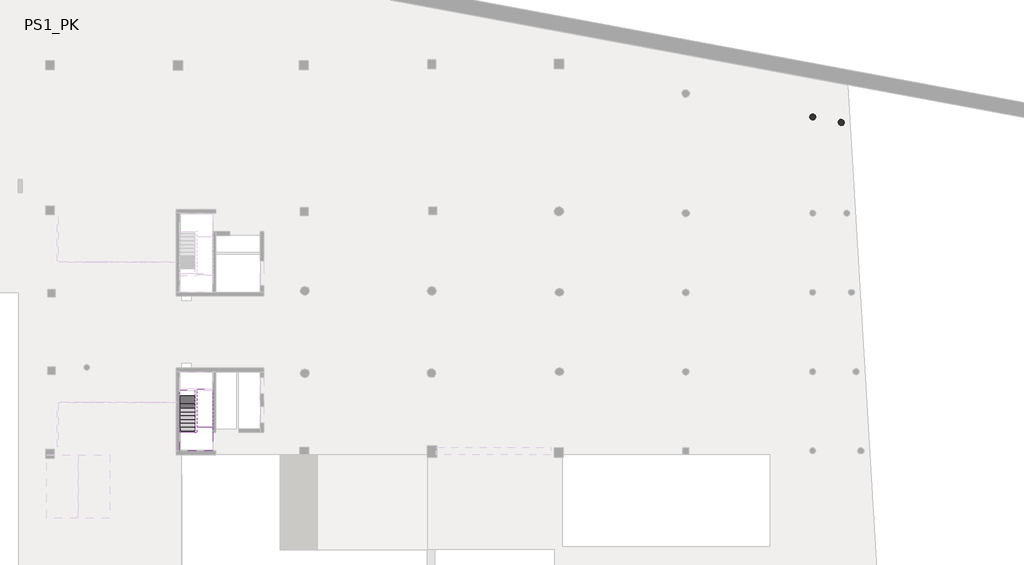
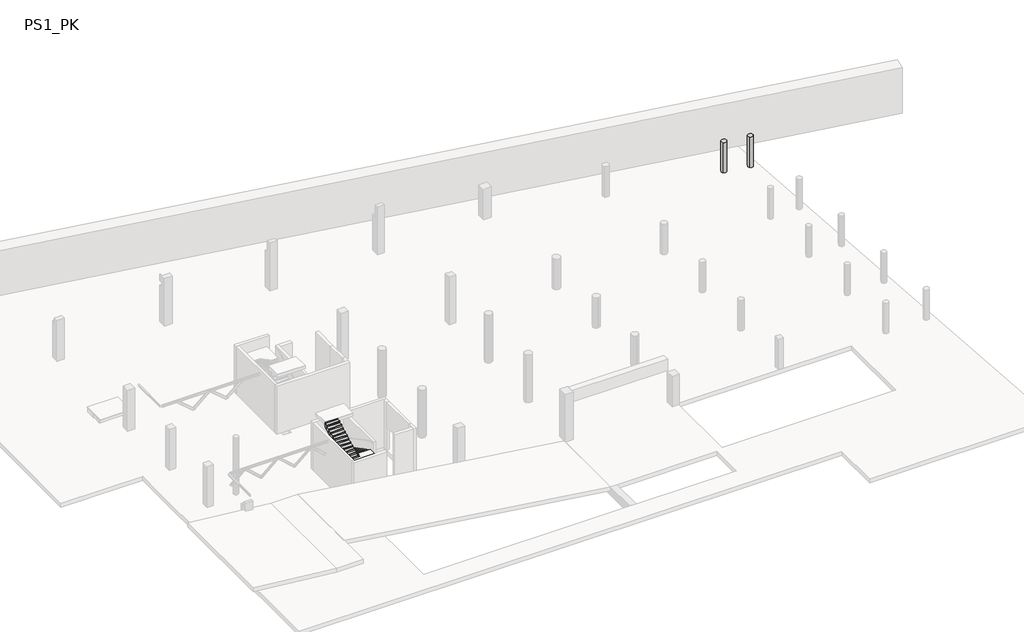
# One storey, part 3 of 5: 3 stair flights, 2 columns, 1 slab.
"""IFC4 building model written with IfcOpenShell, lengths in millimetres."""

from ifc_helpers import new_model, si_unit, point, frame, frame_2d, origin, place, context, project, spatial, polyline, circle_curve, trimmed, segment, composite_curve, outline, extrude, faceted_brep, element, save

model = new_model("IFC4")

# Units and contexts
model_context = context("Model", 3, world=origin())
ifc_project = project(units=[si_unit("LENGTHUNIT", "METRE", prefix="MILLI")], contexts=[model_context])

# Site, building, storey
site = spatial("IfcSite", under=ifc_project)
building = spatial("IfcBuilding", under=site)
storey = spatial("IfcBuildingStorey", under=building, Name="PS1_PK", Elevation=1850.0)

# Columns
placement = place(None, origin())
element("IfcColumn", 1, ObjectType="Hormigón-Redondo-Pilar : Pilo_Rodo-Formigo-500", at=placement, inside=storey, context=model_context, shape_type="SweptSolid", body=[
    extrude(outline(composite_curve([segment(trimmed(circle_curve(frame_2d((38738.3747997, 21018.6057261)), 250.0), [point((38532.4698587, 20876.8201299))], [point((38944.2797407, 21160.3913222))], False, "CARTESIAN"), True, "CONTINUOUS"), segment(trimmed(circle_curve(frame_2d((38738.3747997, 21018.6057261)), 250.0), [point((38944.2797407, 21160.3913222))], [point((38532.4698587, 20876.8201299))], False, "CARTESIAN"), True, "CONTINUOUS")], self_intersect=False)), frame((0.0, 0.0, 1850.0), z_axis=(0.0, 0.0, 1.0), x_axis=(1.0, 0.0, 0.0)), (0.0, 0.0, 1.0), 3030.0),
])
element("IfcColumn", 2, ObjectType="Hormigón-Redondo-Pilar : Pilo_Rodo-Formigo-500", at=placement, inside=storey, context=model_context, shape_type="SweptSolid", body=[
    extrude(outline(composite_curve([segment(trimmed(circle_curve(frame_2d((36484.7068935, 21438.5754886)), 250.0), [point((36278.8019525, 21296.7898924))], [point((36690.6118345, 21580.3610847))], False, "CARTESIAN"), True, "CONTINUOUS"), segment(trimmed(circle_curve(frame_2d((36484.7068935, 21438.5754886)), 250.0), [point((36690.6118345, 21580.3610847))], [point((36278.8019525, 21296.7898924))], False, "CARTESIAN"), True, "CONTINUOUS")], self_intersect=False)), frame((0.0, 0.0, 1850.0), z_axis=(0.0, 0.0, 1.0), x_axis=(1.0, 0.0, 0.0)), (0.0, 0.0, 1.0), 3030.0),
])

# Slab
element("IfcSlab", 3, ObjectType="250mm_Thickness", at=placement, inside=storey, context=model_context, shape_type="SolidModel", body=[
    faceted_brep([(-10790.2146087, -3035.1039323, 5553.7142857), (-11990.2146087, -3035.1039323, 5553.7142857), (-11990.2146087, -3397.2095479, 5553.7142857), (-11990.2146087, -3435.1039323, 5553.7142857), (-12190.3216429, -3435.1039323, 5553.7142857), (-12190.3216429, -3385.1039323, 5553.7142857), (-13390.3216429, -3385.1039323, 5553.7142857), (-13390.3216429, -3435.1039323, 5553.7142857), (-13390.3216429, -4885.1039323, 5553.7142857), (-10790.2146087, -4885.1039323, 5553.7142857), (-10790.2146087, -3397.2095479, 5553.7142857), (-10790.2146087, -3035.1039323, 5394.8571429), (-10790.2146087, -3035.1039323, 5111.9707407), (-11990.2146087, -3035.1039323, 5111.9707407), (-11990.2146087, -3035.1039323, 5394.8571429), (-10790.2146087, -4885.1039323, 5303.7142857), (-10790.2146087, -3397.2095479, 5303.7142857), (-13390.3216429, -4885.1039323, 5303.7142857), (-13390.3216429, -3435.1039323, 5303.7142857), (-12190.3216429, -3385.1039323, 5303.7142857), (-13390.3216429, -3385.1039323, 5303.7142857), (-11990.2146087, -3435.1039323, 5303.7142857), (-12190.3216429, -3435.1039323, 5303.7142857), (-11990.2146087, -3397.2095479, 5303.7142857)], [[[0, 1, 2, 3, 4, 5, 6, 7, 8, 9, 10]], [[1, 0, 11, 12, 13, 14]], [[12, 11, 0, 10, 9, 15, 16]], [[9, 8, 17, 15]], [[8, 7, 18, 17]], [[6, 5, 19, 20]], [[4, 3, 21, 22]], [[1, 14, 13, 23, 21, 3, 2]], [[23, 16, 15, 17, 18, 20, 19, 22, 21]], [[16, 23, 13, 12]], [[5, 4, 22, 19]], [[7, 6, 20, 18]]]),
    extrude(outline(polyline([(-10790.2146087, -2985.1039323), (-10790.2146087, -4885.1039323), (-13390.3216429, -4885.1039323), (-13390.3216429, -3435.1039323), (-12190.3216429, -3435.1039323), (-11990.2146087, -3435.1039323), (-11990.2146087, -2985.1039323), (-10790.2146087, -2985.1039323)])), frame((0.0, 0.0, 5553.7142857), z_axis=(0.0, 0.0, 1.0), x_axis=(1.0, 0.0, 0.0)), (0.0, 0.0, 1.0), 50.0),
])

# Stair flights
element("IfcStairFlight", 4, ObjectType="250mm Depth", at=placement, inside=storey, context=model_context, shape_type="SolidModel", body=[
    faceted_brep([(-13390.3216429, -2935.1039323, 2058.8571429), (-13390.3216429, -3235.1039323, 2058.8571429), (-12190.3216429, -3235.1039323, 2058.8571429), (-12190.3216429, -2935.1039323, 2058.8571429), (-12190.3216429, -3235.1039323, 1950.0), (-12190.3216429, -2935.1039323, 1950.0), (-13390.3216429, -3235.1039323, 1950.0), (-13390.3216429, -2935.1039323, 1950.0), (-13390.3216429, -2635.1039323, 2217.7142857), (-13390.3216429, -2935.1039323, 2217.7142857), (-12190.3216429, -2935.1039323, 2217.7142857), (-12190.3216429, -2635.1039323, 2217.7142857), (-12190.3216429, -2635.1039323, 1950.0), (-13390.3216429, -2635.1039323, 1950.0), (-13390.3216429, -2335.1039323, 2376.5714286), (-13390.3216429, -2635.1039323, 2376.5714286), (-12190.3216429, -2635.1039323, 2376.5714286), (-12190.3216429, -2335.1039323, 2376.5714286), (-12190.3216429, -2606.451554, 1950.0), (-12190.3216429, -2335.1039323, 2093.6850264), (-13390.3216429, -2335.1039323, 2093.6850264), (-13390.3216429, -2606.451554, 1950.0), (-13390.3216429, -2035.1039323, 2535.4285714), (-13390.3216429, -2335.1039323, 2535.4285714), (-12190.3216429, -2335.1039323, 2535.4285714), (-12190.3216429, -2035.1039323, 2535.4285714), (-12190.3216429, -2035.1039323, 2252.5421692), (-13390.3216429, -2035.1039323, 2252.5421692), (-13390.3216429, -1735.1039323, 2694.2857143), (-13390.3216429, -2035.1039323, 2694.2857143), (-12190.3216429, -2035.1039323, 2694.2857143), (-12190.3216429, -1735.1039323, 2694.2857143), (-12190.3216429, -1735.1039323, 2411.3993121), (-13390.3216429, -1735.1039323, 2411.3993121), (-13390.3216429, -1435.1039323, 2853.1428571), (-13390.3216429, -1735.1039323, 2853.1428571), (-12190.3216429, -1735.1039323, 2853.1428571), (-12190.3216429, -1435.1039323, 2853.1428571), (-12190.3216429, -1435.1039323, 2570.2564549), (-13390.3216429, -1435.1039323, 2570.2564549), (-13390.3216429, -1135.1039323, 3012.0), (-13390.3216429, -1435.1039323, 3012.0), (-12190.3216429, -1435.1039323, 3012.0), (-12190.3216429, -1135.1039323, 3012.0), (-12190.3216429, -1135.1039323, 2729.1135978), (-13390.3216429, -1135.1039323, 2729.1135978), (-13390.3216429, -835.1039323, 3170.8571429), (-13390.3216429, -1135.1039323, 3170.8571429), (-12190.3216429, -1135.1039323, 3170.8571429), (-12190.3216429, -835.1039323, 3170.8571429), (-12190.3216429, -835.1039323, 2887.9707407), (-13390.3216429, -835.1039323, 2887.9707407), (-13390.3216429, -535.1039323, 3329.7142857), (-13390.3216429, -835.1039323, 3329.7142857), (-12190.3216429, -835.1039323, 3329.7142857), (-12190.3216429, -535.1039323, 3329.7142857), (-12190.3216429, -535.1039323, 3046.8278835), (-13390.3216429, -535.1039323, 3046.8278835), (-13390.3216429, -235.1039323, 3488.5714286), (-13390.3216429, -535.1039323, 3488.5714286), (-12190.3216429, -535.1039323, 3488.5714286), (-12190.3216429, -235.1039323, 3488.5714286), (-12190.3216429, -235.1039323, 3205.6850264), (-13390.3216429, -235.1039323, 3205.6850264), (-13390.3216429, 64.8960677, 3647.4285714), (-13390.3216429, -235.1039323, 3647.4285714), (-12190.3216429, -235.1039323, 3647.4285714), (-12190.3216429, 14.8960677, 3647.4285714), (-12190.3216429, 64.8960677, 3647.4285714), (-12190.3216429, 64.8960677, 3364.5421692), (-12190.3216429, 64.8960677, 3556.2857143), (-13390.3216429, 64.8960677, 3364.5421692)], [[[0, 1, 2, 3]], [[3, 2, 4, 5]], [[2, 1, 6, 4]], [[1, 0, 7, 6]], [[8, 9, 10, 11]], [[3, 5, 12, 11, 10]], [[0, 3, 10, 9]], [[7, 0, 9, 8, 13]], [[14, 15, 16, 17]], [[11, 12, 18, 19, 17, 16]], [[8, 11, 16, 15]], [[13, 8, 15, 14, 20, 21]], [[22, 23, 24, 25]], [[25, 24, 17, 19, 26]], [[14, 17, 24, 23]], [[23, 22, 27, 20, 14]], [[28, 29, 30, 31]], [[31, 30, 25, 26, 32]], [[22, 25, 30, 29]], [[29, 28, 33, 27, 22]], [[34, 35, 36, 37]], [[37, 36, 31, 32, 38]], [[28, 31, 36, 35]], [[35, 34, 39, 33, 28]], [[40, 41, 42, 43]], [[43, 42, 37, 38, 44]], [[34, 37, 42, 41]], [[41, 40, 45, 39, 34]], [[46, 47, 48, 49]], [[49, 48, 43, 44, 50]], [[40, 43, 48, 47]], [[47, 46, 51, 45, 40]], [[52, 53, 54, 55]], [[55, 54, 49, 50, 56]], [[46, 49, 54, 53]], [[53, 52, 57, 51, 46]], [[58, 59, 60, 61]], [[61, 60, 55, 56, 62]], [[52, 55, 60, 59]], [[59, 58, 63, 57, 52]], [[64, 65, 66, 67, 68]], [[66, 61, 62, 69, 70, 68, 67]], [[58, 61, 66, 65]], [[65, 64, 71, 63, 58]], [[64, 68, 70, 69, 71]], [[6, 7, 13, 21, 18, 12, 5, 4]], [[18, 21, 20, 27, 33, 39, 45, 51, 57, 63, 71, 69, 62, 56, 50, 44, 38, 32, 26, 19]]]),
    extrude(outline(polyline([(-12190.3216429, -3235.1039323), (-12190.3216429, -3285.1039323), (-13390.3216429, -3285.1039323), (-13390.3216429, -3235.1039323), (-12190.3216429, -3235.1039323)])), frame((0.0, 0.0, 1950.0), z_axis=(0.0, 0.0, 1.0), x_axis=(1.0, 0.0, 0.0)), (0.0, 0.0, 1.0), 108.8571429),
    extrude(outline(polyline([(-13390.3216429, -2985.1039323), (-12190.3216429, -2985.1039323), (-12190.3216429, -3285.1039323), (-13390.3216429, -3285.1039323), (-13390.3216429, -2985.1039323)])), frame((0.0, 0.0, 2058.8571429), z_axis=(0.0, 0.0, 1.0), x_axis=(1.0, 0.0, 0.0)), (0.0, 0.0, 1.0), 50.0),
    extrude(outline(polyline([(-12190.3216429, -2935.1039323), (-12190.3216429, -2985.1039323), (-13390.3216429, -2985.1039323), (-13390.3216429, -2935.1039323), (-12190.3216429, -2935.1039323)])), frame((0.0, 0.0, 2058.8571429), z_axis=(0.0, 0.0, 1.0), x_axis=(1.0, 0.0, 0.0)), (0.0, 0.0, 1.0), 158.8571429),
    extrude(outline(polyline([(-13390.3216429, -2685.1039323), (-12190.3216429, -2685.1039323), (-12190.3216429, -2985.1039323), (-13390.3216429, -2985.1039323), (-13390.3216429, -2685.1039323)])), frame((0.0, 0.0, 2217.7142857), z_axis=(0.0, 0.0, 1.0), x_axis=(1.0, 0.0, 0.0)), (0.0, 0.0, 1.0), 50.0),
    extrude(outline(polyline([(-12190.3216429, -2635.1039323), (-12190.3216429, -2685.1039323), (-13390.3216429, -2685.1039323), (-13390.3216429, -2635.1039323), (-12190.3216429, -2635.1039323)])), frame((0.0, 0.0, 2217.7142857), z_axis=(0.0, 0.0, 1.0), x_axis=(1.0, 0.0, 0.0)), (0.0, 0.0, 1.0), 158.8571429),
    extrude(outline(polyline([(-13390.3216429, -2385.1039323), (-12190.3216429, -2385.1039323), (-12190.3216429, -2685.1039323), (-13390.3216429, -2685.1039323), (-13390.3216429, -2385.1039323)])), frame((0.0, 0.0, 2376.5714286), z_axis=(0.0, 0.0, 1.0), x_axis=(1.0, 0.0, 0.0)), (0.0, 0.0, 1.0), 50.0),
    extrude(outline(polyline([(-12190.3216429, -2335.1039323), (-12190.3216429, -2385.1039323), (-13390.3216429, -2385.1039323), (-13390.3216429, -2335.1039323), (-12190.3216429, -2335.1039323)])), frame((0.0, 0.0, 2376.5714286), z_axis=(0.0, 0.0, 1.0), x_axis=(1.0, 0.0, 0.0)), (0.0, 0.0, 1.0), 158.8571429),
    extrude(outline(polyline([(-13390.3216429, -2085.1039323), (-12190.3216429, -2085.1039323), (-12190.3216429, -2385.1039323), (-13390.3216429, -2385.1039323), (-13390.3216429, -2085.1039323)])), frame((0.0, 0.0, 2535.4285714), z_axis=(0.0, 0.0, 1.0), x_axis=(1.0, 0.0, 0.0)), (0.0, 0.0, 1.0), 50.0),
    extrude(outline(polyline([(-12190.3216429, -2035.1039323), (-12190.3216429, -2085.1039323), (-13390.3216429, -2085.1039323), (-13390.3216429, -2035.1039323), (-12190.3216429, -2035.1039323)])), frame((0.0, 0.0, 2535.4285714), z_axis=(0.0, 0.0, 1.0), x_axis=(1.0, 0.0, 0.0)), (0.0, 0.0, 1.0), 158.8571429),
    extrude(outline(polyline([(-13390.3216429, -1785.1039323), (-12190.3216429, -1785.1039323), (-12190.3216429, -2085.1039323), (-13390.3216429, -2085.1039323), (-13390.3216429, -1785.1039323)])), frame((0.0, 0.0, 2694.2857143), z_axis=(0.0, 0.0, 1.0), x_axis=(1.0, 0.0, 0.0)), (0.0, 0.0, 1.0), 50.0),
    extrude(outline(polyline([(-12190.3216429, -1735.1039323), (-12190.3216429, -1785.1039323), (-13390.3216429, -1785.1039323), (-13390.3216429, -1735.1039323), (-12190.3216429, -1735.1039323)])), frame((0.0, 0.0, 2694.2857143), z_axis=(0.0, 0.0, 1.0), x_axis=(1.0, 0.0, 0.0)), (0.0, 0.0, 1.0), 158.8571429),
    extrude(outline(polyline([(-13390.3216429, -1485.1039323), (-12190.3216429, -1485.1039323), (-12190.3216429, -1785.1039323), (-13390.3216429, -1785.1039323), (-13390.3216429, -1485.1039323)])), frame((0.0, 0.0, 2853.1428571), z_axis=(0.0, 0.0, 1.0), x_axis=(1.0, 0.0, 0.0)), (0.0, 0.0, 1.0), 50.0),
    extrude(outline(polyline([(-12190.3216429, -1435.1039323), (-12190.3216429, -1485.1039323), (-13390.3216429, -1485.1039323), (-13390.3216429, -1435.1039323), (-12190.3216429, -1435.1039323)])), frame((0.0, 0.0, 2853.1428571), z_axis=(0.0, 0.0, 1.0), x_axis=(1.0, 0.0, 0.0)), (0.0, 0.0, 1.0), 158.8571429),
    extrude(outline(polyline([(-13390.3216429, -1185.1039323), (-12190.3216429, -1185.1039323), (-12190.3216429, -1485.1039323), (-13390.3216429, -1485.1039323), (-13390.3216429, -1185.1039323)])), frame((0.0, 0.0, 3012.0), z_axis=(0.0, 0.0, 1.0), x_axis=(1.0, 0.0, 0.0)), (0.0, 0.0, 1.0), 50.0),
    extrude(outline(polyline([(-12190.3216429, -1135.1039323), (-12190.3216429, -1185.1039323), (-13390.3216429, -1185.1039323), (-13390.3216429, -1135.1039323), (-12190.3216429, -1135.1039323)])), frame((0.0, 0.0, 3012.0), z_axis=(0.0, 0.0, 1.0), x_axis=(1.0, 0.0, 0.0)), (0.0, 0.0, 1.0), 158.8571429),
    extrude(outline(polyline([(-13390.3216429, -885.1039323), (-12190.3216429, -885.1039323), (-12190.3216429, -1185.1039323), (-13390.3216429, -1185.1039323), (-13390.3216429, -885.1039323)])), frame((0.0, 0.0, 3170.8571429), z_axis=(0.0, 0.0, 1.0), x_axis=(1.0, 0.0, 0.0)), (0.0, 0.0, 1.0), 50.0),
    extrude(outline(polyline([(-12190.3216429, -835.1039323), (-12190.3216429, -885.1039323), (-13390.3216429, -885.1039323), (-13390.3216429, -835.1039323), (-12190.3216429, -835.1039323)])), frame((0.0, 0.0, 3170.8571429), z_axis=(0.0, 0.0, 1.0), x_axis=(1.0, 0.0, 0.0)), (0.0, 0.0, 1.0), 158.8571429),
    extrude(outline(polyline([(-13390.3216429, -585.1039323), (-12190.3216429, -585.1039323), (-12190.3216429, -885.1039323), (-13390.3216429, -885.1039323), (-13390.3216429, -585.1039323)])), frame((0.0, 0.0, 3329.7142857), z_axis=(0.0, 0.0, 1.0), x_axis=(1.0, 0.0, 0.0)), (0.0, 0.0, 1.0), 50.0),
    extrude(outline(polyline([(-12190.3216429, -535.1039323), (-12190.3216429, -585.1039323), (-13390.3216429, -585.1039323), (-13390.3216429, -535.1039323), (-12190.3216429, -535.1039323)])), frame((0.0, 0.0, 3329.7142857), z_axis=(0.0, 0.0, 1.0), x_axis=(1.0, 0.0, 0.0)), (0.0, 0.0, 1.0), 158.8571429),
    extrude(outline(polyline([(-13390.3216429, -285.1039323), (-12190.3216429, -285.1039323), (-12190.3216429, -585.1039323), (-13390.3216429, -585.1039323), (-13390.3216429, -285.1039323)])), frame((0.0, 0.0, 3488.5714286), z_axis=(0.0, 0.0, 1.0), x_axis=(1.0, 0.0, 0.0)), (0.0, 0.0, 1.0), 50.0),
    extrude(outline(polyline([(-12190.3216429, -235.1039323), (-12190.3216429, -285.1039323), (-13390.3216429, -285.1039323), (-13390.3216429, -235.1039323), (-12190.3216429, -235.1039323)])), frame((0.0, 0.0, 3488.5714286), z_axis=(0.0, 0.0, 1.0), x_axis=(1.0, 0.0, 0.0)), (0.0, 0.0, 1.0), 158.8571429),
    extrude(outline(polyline([(-12190.3216429, 64.8960677), (-12190.3216429, 14.8960677), (-13390.3216429, 14.8960677), (-13390.3216429, 64.8960677), (-12190.3216429, 64.8960677)])), frame((0.0, 0.0, 3647.4285714), z_axis=(0.0, 0.0, 1.0), x_axis=(1.0, 0.0, 0.0)), (0.0, 0.0, 1.0), 158.8571429),
    extrude(outline(polyline([(-13390.3216429, 14.8960677), (-12190.3216429, 14.8960677), (-12190.3216429, -285.1039323), (-13390.3216429, -285.1039323), (-13390.3216429, 14.8960677)])), frame((0.0, 0.0, 3647.4285714), z_axis=(0.0, 0.0, 1.0), x_axis=(1.0, 0.0, 0.0)), (0.0, 0.0, 1.0), 50.0),
])
element("IfcStairFlight", 5, ObjectType="250mm Depth", at=placement, inside=storey, context=model_context, shape_type="SolidModel", body=[
    faceted_brep([(-10790.2146087, -35.1039323, 3965.1428571), (-11990.2146087, -35.1039323, 3965.1428571), (-11990.2146087, -97.2095479, 3965.1428571), (-11990.2146087, -335.1039323, 3965.1428571), (-10790.2146087, -335.1039323, 3965.1428571), (-10790.2146087, -97.2095479, 3965.1428571), (-11990.2146087, -35.1039323, 3806.2857143), (-11990.2146087, -35.1039323, 3556.2857143), (-11990.2146087, -97.2095479, 3556.2857143), (-11990.2146087, -335.1039323, 3682.2564549), (-10790.2146087, -35.1039323, 3806.2857143), (-10790.2146087, -35.1039323, 3556.2857143), (-10790.2146087, -335.1039323, 3682.2564549), (-10790.2146087, -97.2095479, 3556.2857143), (-10790.2146087, -635.1039323, 4124.0), (-10790.2146087, -335.1039323, 4124.0), (-11990.2146087, -335.1039323, 4124.0), (-11990.2146087, -635.1039323, 4124.0), (-11990.2146087, -635.1039323, 3841.1135978), (-10790.2146087, -635.1039323, 3841.1135978), (-10790.2146087, -935.1039323, 4282.8571429), (-10790.2146087, -635.1039323, 4282.8571429), (-11990.2146087, -635.1039323, 4282.8571429), (-11990.2146087, -935.1039323, 4282.8571429), (-11990.2146087, -935.1039323, 3999.9707407), (-10790.2146087, -935.1039323, 3999.9707407), (-10790.2146087, -1235.1039323, 4441.7142857), (-10790.2146087, -935.1039323, 4441.7142857), (-11990.2146087, -935.1039323, 4441.7142857), (-11990.2146087, -1235.1039323, 4441.7142857), (-11990.2146087, -1235.1039323, 4158.8278835), (-10790.2146087, -1235.1039323, 4158.8278835), (-10790.2146087, -1535.1039323, 4600.5714286), (-10790.2146087, -1235.1039323, 4600.5714286), (-11990.2146087, -1235.1039323, 4600.5714286), (-11990.2146087, -1535.1039323, 4600.5714286), (-11990.2146087, -1535.1039323, 4317.6850264), (-10790.2146087, -1535.1039323, 4317.6850264), (-10790.2146087, -1835.1039323, 4759.4285714), (-10790.2146087, -1535.1039323, 4759.4285714), (-11990.2146087, -1535.1039323, 4759.4285714), (-11990.2146087, -1835.1039323, 4759.4285714), (-11990.2146087, -1835.1039323, 4476.5421692), (-10790.2146087, -1835.1039323, 4476.5421692), (-10790.2146087, -2135.1039323, 4918.2857143), (-10790.2146087, -1835.1039323, 4918.2857143), (-11990.2146087, -1835.1039323, 4918.2857143), (-11990.2146087, -2135.1039323, 4918.2857143), (-11990.2146087, -2135.1039323, 4635.3993121), (-10790.2146087, -2135.1039323, 4635.3993121), (-10790.2146087, -2435.1039323, 5077.1428571), (-10790.2146087, -2135.1039323, 5077.1428571), (-11990.2146087, -2135.1039323, 5077.1428571), (-11990.2146087, -2435.1039323, 5077.1428571), (-11990.2146087, -2435.1039323, 4794.2564549), (-10790.2146087, -2435.1039323, 4794.2564549), (-10790.2146087, -2735.1039323, 5236.0), (-10790.2146087, -2435.1039323, 5236.0), (-11990.2146087, -2435.1039323, 5236.0), (-11990.2146087, -2735.1039323, 5236.0), (-11990.2146087, -2735.1039323, 4953.1135978), (-10790.2146087, -2735.1039323, 4953.1135978), (-10790.2146087, -3035.1039323, 5394.8571429), (-10790.2146087, -2735.1039323, 5394.8571429), (-11990.2146087, -2735.1039323, 5394.8571429), (-11990.2146087, -3035.1039323, 5394.8571429), (-11990.2146087, -3035.1039323, 5111.9707407), (-10790.2146087, -3035.1039323, 5111.9707407)], [[[0, 1, 2, 3, 4, 5]], [[1, 6, 7, 8, 9, 3, 2]], [[1, 0, 10, 11, 7, 6]], [[4, 12, 13, 11, 10, 0, 5]], [[14, 15, 16, 17]], [[17, 16, 3, 9, 18]], [[16, 15, 4, 3]], [[15, 14, 19, 12, 4]], [[20, 21, 22, 23]], [[23, 22, 17, 18, 24]], [[22, 21, 14, 17]], [[21, 20, 25, 19, 14]], [[26, 27, 28, 29]], [[29, 28, 23, 24, 30]], [[28, 27, 20, 23]], [[27, 26, 31, 25, 20]], [[32, 33, 34, 35]], [[35, 34, 29, 30, 36]], [[34, 33, 26, 29]], [[33, 32, 37, 31, 26]], [[38, 39, 40, 41]], [[41, 40, 35, 36, 42]], [[40, 39, 32, 35]], [[39, 38, 43, 37, 32]], [[44, 45, 46, 47]], [[47, 46, 41, 42, 48]], [[46, 45, 38, 41]], [[45, 44, 49, 43, 38]], [[50, 51, 52, 53]], [[53, 52, 47, 48, 54]], [[52, 51, 44, 47]], [[51, 50, 55, 49, 44]], [[56, 57, 58, 59]], [[59, 58, 53, 54, 60]], [[58, 57, 50, 53]], [[57, 56, 61, 55, 50]], [[62, 63, 64, 65]], [[65, 64, 59, 60, 66]], [[64, 63, 56, 59]], [[63, 62, 67, 61, 56]], [[62, 65, 66, 67]], [[8, 13, 12, 19, 25, 31, 37, 43, 49, 55, 61, 67, 66, 60, 54, 48, 42, 36, 30, 24, 18, 9]], [[13, 8, 7, 11]]]),
    extrude(outline(polyline([(-11990.2146087, -35.1039323), (-11990.2146087, 14.8960677), (-10790.2146087, 14.8960677), (-10790.2146087, -35.1039323), (-11990.2146087, -35.1039323)])), frame((0.0, 0.0, 3806.2857143), z_axis=(0.0, 0.0, 1.0), x_axis=(1.0, 0.0, 0.0)), (0.0, 0.0, 1.0), 158.8571429),
    extrude(outline(polyline([(-10790.2146087, -285.1039323), (-11990.2146087, -285.1039323), (-11990.2146087, 14.8960677), (-10790.2146087, 14.8960677), (-10790.2146087, -285.1039323)])), frame((0.0, 0.0, 3965.1428571), z_axis=(0.0, 0.0, 1.0), x_axis=(1.0, 0.0, 0.0)), (0.0, 0.0, 1.0), 50.0),
    extrude(outline(polyline([(-11990.2146087, -335.1039323), (-11990.2146087, -285.1039323), (-10790.2146087, -285.1039323), (-10790.2146087, -335.1039323), (-11990.2146087, -335.1039323)])), frame((0.0, 0.0, 3965.1428571), z_axis=(0.0, 0.0, 1.0), x_axis=(1.0, 0.0, 0.0)), (0.0, 0.0, 1.0), 158.8571429),
    extrude(outline(polyline([(-10790.2146087, -585.1039323), (-11990.2146087, -585.1039323), (-11990.2146087, -285.1039323), (-10790.2146087, -285.1039323), (-10790.2146087, -585.1039323)])), frame((0.0, 0.0, 4124.0), z_axis=(0.0, 0.0, 1.0), x_axis=(1.0, 0.0, 0.0)), (0.0, 0.0, 1.0), 50.0),
    extrude(outline(polyline([(-11990.2146087, -635.1039323), (-11990.2146087, -585.1039323), (-10790.2146087, -585.1039323), (-10790.2146087, -635.1039323), (-11990.2146087, -635.1039323)])), frame((0.0, 0.0, 4124.0), z_axis=(0.0, 0.0, 1.0), x_axis=(1.0, 0.0, 0.0)), (0.0, 0.0, 1.0), 158.8571429),
    extrude(outline(polyline([(-10790.2146087, -885.1039323), (-11990.2146087, -885.1039323), (-11990.2146087, -585.1039323), (-10790.2146087, -585.1039323), (-10790.2146087, -885.1039323)])), frame((0.0, 0.0, 4282.8571429), z_axis=(0.0, 0.0, 1.0), x_axis=(1.0, 0.0, 0.0)), (0.0, 0.0, 1.0), 50.0),
    extrude(outline(polyline([(-11990.2146087, -935.1039323), (-11990.2146087, -885.1039323), (-10790.2146087, -885.1039323), (-10790.2146087, -935.1039323), (-11990.2146087, -935.1039323)])), frame((0.0, 0.0, 4282.8571429), z_axis=(0.0, 0.0, 1.0), x_axis=(1.0, 0.0, 0.0)), (0.0, 0.0, 1.0), 158.8571429),
    extrude(outline(polyline([(-10790.2146087, -1185.1039323), (-11990.2146087, -1185.1039323), (-11990.2146087, -885.1039323), (-10790.2146087, -885.1039323), (-10790.2146087, -1185.1039323)])), frame((0.0, 0.0, 4441.7142857), z_axis=(0.0, 0.0, 1.0), x_axis=(1.0, 0.0, 0.0)), (0.0, 0.0, 1.0), 50.0),
    extrude(outline(polyline([(-11990.2146087, -1235.1039323), (-11990.2146087, -1185.1039323), (-10790.2146087, -1185.1039323), (-10790.2146087, -1235.1039323), (-11990.2146087, -1235.1039323)])), frame((0.0, 0.0, 4441.7142857), z_axis=(0.0, 0.0, 1.0), x_axis=(1.0, 0.0, 0.0)), (0.0, 0.0, 1.0), 158.8571429),
    extrude(outline(polyline([(-10790.2146087, -1485.1039323), (-11990.2146087, -1485.1039323), (-11990.2146087, -1185.1039323), (-10790.2146087, -1185.1039323), (-10790.2146087, -1485.1039323)])), frame((0.0, 0.0, 4600.5714286), z_axis=(0.0, 0.0, 1.0), x_axis=(1.0, 0.0, 0.0)), (0.0, 0.0, 1.0), 50.0),
    extrude(outline(polyline([(-11990.2146087, -1535.1039323), (-11990.2146087, -1485.1039323), (-10790.2146087, -1485.1039323), (-10790.2146087, -1535.1039323), (-11990.2146087, -1535.1039323)])), frame((0.0, 0.0, 4600.5714286), z_axis=(0.0, 0.0, 1.0), x_axis=(1.0, 0.0, 0.0)), (0.0, 0.0, 1.0), 158.8571429),
    extrude(outline(polyline([(-10790.2146087, -1785.1039323), (-11990.2146087, -1785.1039323), (-11990.2146087, -1485.1039323), (-10790.2146087, -1485.1039323), (-10790.2146087, -1785.1039323)])), frame((0.0, 0.0, 4759.4285714), z_axis=(0.0, 0.0, 1.0), x_axis=(1.0, 0.0, 0.0)), (0.0, 0.0, 1.0), 50.0),
    extrude(outline(polyline([(-11990.2146087, -1835.1039323), (-11990.2146087, -1785.1039323), (-10790.2146087, -1785.1039323), (-10790.2146087, -1835.1039323), (-11990.2146087, -1835.1039323)])), frame((0.0, 0.0, 4759.4285714), z_axis=(0.0, 0.0, 1.0), x_axis=(1.0, 0.0, 0.0)), (0.0, 0.0, 1.0), 158.8571429),
    extrude(outline(polyline([(-10790.2146087, -2085.1039323), (-11990.2146087, -2085.1039323), (-11990.2146087, -1785.1039323), (-10790.2146087, -1785.1039323), (-10790.2146087, -2085.1039323)])), frame((0.0, 0.0, 4918.2857143), z_axis=(0.0, 0.0, 1.0), x_axis=(1.0, 0.0, 0.0)), (0.0, 0.0, 1.0), 50.0),
    extrude(outline(polyline([(-11990.2146087, -2135.1039323), (-11990.2146087, -2085.1039323), (-10790.2146087, -2085.1039323), (-10790.2146087, -2135.1039323), (-11990.2146087, -2135.1039323)])), frame((0.0, 0.0, 4918.2857143), z_axis=(0.0, 0.0, 1.0), x_axis=(1.0, 0.0, 0.0)), (0.0, 0.0, 1.0), 158.8571429),
    extrude(outline(polyline([(-10790.2146087, -2385.1039323), (-11990.2146087, -2385.1039323), (-11990.2146087, -2085.1039323), (-10790.2146087, -2085.1039323), (-10790.2146087, -2385.1039323)])), frame((0.0, 0.0, 5077.1428571), z_axis=(0.0, 0.0, 1.0), x_axis=(1.0, 0.0, 0.0)), (0.0, 0.0, 1.0), 50.0),
    extrude(outline(polyline([(-11990.2146087, -2435.1039323), (-11990.2146087, -2385.1039323), (-10790.2146087, -2385.1039323), (-10790.2146087, -2435.1039323), (-11990.2146087, -2435.1039323)])), frame((0.0, 0.0, 5077.1428571), z_axis=(0.0, 0.0, 1.0), x_axis=(1.0, 0.0, 0.0)), (0.0, 0.0, 1.0), 158.8571429),
    extrude(outline(polyline([(-10790.2146087, -2685.1039323), (-11990.2146087, -2685.1039323), (-11990.2146087, -2385.1039323), (-10790.2146087, -2385.1039323), (-10790.2146087, -2685.1039323)])), frame((0.0, 0.0, 5236.0), z_axis=(0.0, 0.0, 1.0), x_axis=(1.0, 0.0, 0.0)), (0.0, 0.0, 1.0), 50.0),
    extrude(outline(polyline([(-11990.2146087, -2735.1039323), (-11990.2146087, -2685.1039323), (-10790.2146087, -2685.1039323), (-10790.2146087, -2735.1039323), (-11990.2146087, -2735.1039323)])), frame((0.0, 0.0, 5236.0), z_axis=(0.0, 0.0, 1.0), x_axis=(1.0, 0.0, 0.0)), (0.0, 0.0, 1.0), 158.8571429),
    extrude(outline(polyline([(-11990.2146087, -3035.1039323), (-11990.2146087, -2985.1039323), (-10790.2146087, -2985.1039323), (-10790.2146087, -3035.1039323), (-11990.2146087, -3035.1039323)])), frame((0.0, 0.0, 5394.8571429), z_axis=(0.0, 0.0, 1.0), x_axis=(1.0, 0.0, 0.0)), (0.0, 0.0, 1.0), 158.8571429),
    extrude(outline(polyline([(-10790.2146087, -2985.1039323), (-11990.2146087, -2985.1039323), (-11990.2146087, -2685.1039323), (-10790.2146087, -2685.1039323), (-10790.2146087, -2985.1039323)])), frame((0.0, 0.0, 5394.8571429), z_axis=(0.0, 0.0, 1.0), x_axis=(1.0, 0.0, 0.0)), (0.0, 0.0, 1.0), 50.0),
])
element("IfcStairFlight", 6, ObjectType="250mm Depth", at=placement, inside=storey, context=model_context, shape_type="SolidModel", body=[
    faceted_brep([(-13390.3216429, -3385.1039323, 5712.5714286), (-12190.3216429, -3385.1039323, 5712.5714286), (-12190.3216429, -3322.9983166, 5712.5714286), (-12190.3216429, -3085.1039323, 5712.5714286), (-13390.3216429, -3085.1039323, 5712.5714286), (-13390.3216429, -3322.9983166, 5712.5714286), (-12190.3216429, -3385.1039323, 5553.7142857), (-12190.3216429, -3385.1039323, 5303.7142857), (-12190.3216429, -3322.9983166, 5303.7142857), (-12190.3216429, -3085.1039323, 5429.6850264), (-13390.3216429, -3385.1039323, 5553.7142857), (-13390.3216429, -3385.1039323, 5303.7142857), (-13390.3216429, -3085.1039323, 5429.6850264), (-13390.3216429, -3322.9983166, 5303.7142857), (-13390.3216429, -2785.1039323, 5871.4285714), (-13390.3216429, -3085.1039323, 5871.4285714), (-12190.3216429, -3085.1039323, 5871.4285714), (-12190.3216429, -2785.1039323, 5871.4285714), (-12190.3216429, -2785.1039323, 5588.5421692), (-13390.3216429, -2785.1039323, 5588.5421692), (-13390.3216429, -2485.1039323, 6030.2857143), (-13390.3216429, -2785.1039323, 6030.2857143), (-12190.3216429, -2785.1039323, 6030.2857143), (-12190.3216429, -2485.1039323, 6030.2857143), (-12190.3216429, -2485.1039323, 5747.3993121), (-13390.3216429, -2485.1039323, 5747.3993121), (-13390.3216429, -2185.1039323, 6189.1428571), (-13390.3216429, -2485.1039323, 6189.1428571), (-12190.3216429, -2485.1039323, 6189.1428571), (-12190.3216429, -2185.1039323, 6189.1428571), (-12190.3216429, -2185.1039323, 5906.2564549), (-13390.3216429, -2185.1039323, 5906.2564549), (-13390.3216429, -1885.1039323, 6348.0), (-13390.3216429, -2185.1039323, 6348.0), (-12190.3216429, -2185.1039323, 6348.0), (-12190.3216429, -1885.1039323, 6348.0), (-12190.3216429, -1885.1039323, 6065.1135978), (-13390.3216429, -1885.1039323, 6065.1135978), (-13390.3216429, -1585.1039323, 6506.8571429), (-13390.3216429, -1885.1039323, 6506.8571429), (-12190.3216429, -1885.1039323, 6506.8571429), (-12190.3216429, -1585.1039323, 6506.8571429), (-12190.3216429, -1585.1039323, 6223.9707407), (-13390.3216429, -1585.1039323, 6223.9707407), (-13390.3216429, -1285.1039323, 6665.7142857), (-13390.3216429, -1585.1039323, 6665.7142857), (-12190.3216429, -1585.1039323, 6665.7142857), (-12190.3216429, -1285.1039323, 6665.7142857), (-12190.3216429, -1285.1039323, 6382.8278835), (-13390.3216429, -1285.1039323, 6382.8278835), (-13390.3216429, -985.1039323, 6824.5714286), (-13390.3216429, -1285.1039323, 6824.5714286), (-12190.3216429, -1285.1039323, 6824.5714286), (-12190.3216429, -985.1039323, 6824.5714286), (-12190.3216429, -985.1039323, 6541.6850264), (-13390.3216429, -985.1039323, 6541.6850264), (-13390.3216429, -685.1039323, 6983.4285714), (-13390.3216429, -985.1039323, 6983.4285714), (-12190.3216429, -985.1039323, 6983.4285714), (-12190.3216429, -685.1039323, 6983.4285714), (-12190.3216429, -685.1039323, 6700.5421692), (-13390.3216429, -685.1039323, 6700.5421692), (-13390.3216429, -385.1039323, 7142.2857143), (-13390.3216429, -685.1039323, 7142.2857143), (-12190.3216429, -685.1039323, 7142.2857143), (-12190.3216429, -385.1039323, 7142.2857143), (-12190.3216429, -385.1039323, 6859.3993121), (-13390.3216429, -385.1039323, 6859.3993121), (-13390.3216429, -85.1039323, 7301.1428571), (-13390.3216429, -385.1039323, 7301.1428571), (-12190.3216429, -385.1039323, 7301.1428571), (-12190.3216429, -135.1039323, 7301.1428571), (-12190.3216429, -85.1039323, 7301.1428571), (-12190.3216429, -85.1039323, 7018.2564549), (-12190.3216429, -85.1039323, 7210.0), (-13390.3216429, -85.1039323, 7018.2564549)], [[[0, 1, 2, 3, 4, 5]], [[1, 6, 7, 8, 9, 3, 2]], [[1, 0, 10, 11, 7, 6]], [[4, 12, 13, 11, 10, 0, 5]], [[14, 15, 16, 17]], [[17, 16, 3, 9, 18]], [[16, 15, 4, 3]], [[15, 14, 19, 12, 4]], [[20, 21, 22, 23]], [[23, 22, 17, 18, 24]], [[22, 21, 14, 17]], [[21, 20, 25, 19, 14]], [[26, 27, 28, 29]], [[29, 28, 23, 24, 30]], [[28, 27, 20, 23]], [[27, 26, 31, 25, 20]], [[32, 33, 34, 35]], [[35, 34, 29, 30, 36]], [[34, 33, 26, 29]], [[33, 32, 37, 31, 26]], [[38, 39, 40, 41]], [[41, 40, 35, 36, 42]], [[40, 39, 32, 35]], [[39, 38, 43, 37, 32]], [[44, 45, 46, 47]], [[47, 46, 41, 42, 48]], [[46, 45, 38, 41]], [[45, 44, 49, 43, 38]], [[50, 51, 52, 53]], [[53, 52, 47, 48, 54]], [[52, 51, 44, 47]], [[51, 50, 55, 49, 44]], [[56, 57, 58, 59]], [[59, 58, 53, 54, 60]], [[58, 57, 50, 53]], [[57, 56, 61, 55, 50]], [[62, 63, 64, 65]], [[65, 64, 59, 60, 66]], [[64, 63, 56, 59]], [[63, 62, 67, 61, 56]], [[68, 69, 70, 71, 72]], [[70, 65, 66, 73, 74, 72, 71]], [[70, 69, 62, 65]], [[69, 68, 75, 67, 62]], [[68, 72, 74, 73, 75]], [[8, 13, 12, 19, 25, 31, 37, 43, 49, 55, 61, 67, 75, 73, 66, 60, 54, 48, 42, 36, 30, 24, 18, 9]], [[13, 8, 7, 11]]]),
    extrude(outline(polyline([(-12190.3216429, -3385.1039323), (-12190.3216429, -3435.1039323), (-13390.3216429, -3435.1039323), (-13390.3216429, -3385.1039323), (-12190.3216429, -3385.1039323)])), frame((0.0, 0.0, 5553.7142857), z_axis=(0.0, 0.0, 1.0), x_axis=(1.0, 0.0, 0.0)), (0.0, 0.0, 1.0), 158.8571429),
    extrude(outline(polyline([(-13390.3216429, -3135.1039323), (-12190.3216429, -3135.1039323), (-12190.3216429, -3435.1039323), (-13390.3216429, -3435.1039323), (-13390.3216429, -3135.1039323)])), frame((0.0, 0.0, 5712.5714286), z_axis=(0.0, 0.0, 1.0), x_axis=(1.0, 0.0, 0.0)), (0.0, 0.0, 1.0), 50.0),
    extrude(outline(polyline([(-12190.3216429, -3085.1039323), (-12190.3216429, -3135.1039323), (-13390.3216429, -3135.1039323), (-13390.3216429, -3085.1039323), (-12190.3216429, -3085.1039323)])), frame((0.0, 0.0, 5712.5714286), z_axis=(0.0, 0.0, 1.0), x_axis=(1.0, 0.0, 0.0)), (0.0, 0.0, 1.0), 158.8571429),
    extrude(outline(polyline([(-13390.3216429, -2835.1039323), (-12190.3216429, -2835.1039323), (-12190.3216429, -3135.1039323), (-13390.3216429, -3135.1039323), (-13390.3216429, -2835.1039323)])), frame((0.0, 0.0, 5871.4285714), z_axis=(0.0, 0.0, 1.0), x_axis=(1.0, 0.0, 0.0)), (0.0, 0.0, 1.0), 50.0),
    extrude(outline(polyline([(-12190.3216429, -2785.1039323), (-12190.3216429, -2835.1039323), (-13390.3216429, -2835.1039323), (-13390.3216429, -2785.1039323), (-12190.3216429, -2785.1039323)])), frame((0.0, 0.0, 5871.4285714), z_axis=(0.0, 0.0, 1.0), x_axis=(1.0, 0.0, 0.0)), (0.0, 0.0, 1.0), 158.8571429),
    extrude(outline(polyline([(-13390.3216429, -2535.1039323), (-12190.3216429, -2535.1039323), (-12190.3216429, -2835.1039323), (-13390.3216429, -2835.1039323), (-13390.3216429, -2535.1039323)])), frame((0.0, 0.0, 6030.2857143), z_axis=(0.0, 0.0, 1.0), x_axis=(1.0, 0.0, 0.0)), (0.0, 0.0, 1.0), 50.0),
    extrude(outline(polyline([(-12190.3216429, -2485.1039323), (-12190.3216429, -2535.1039323), (-13390.3216429, -2535.1039323), (-13390.3216429, -2485.1039323), (-12190.3216429, -2485.1039323)])), frame((0.0, 0.0, 6030.2857143), z_axis=(0.0, 0.0, 1.0), x_axis=(1.0, 0.0, 0.0)), (0.0, 0.0, 1.0), 158.8571429),
    extrude(outline(polyline([(-13390.3216429, -2235.1039323), (-12190.3216429, -2235.1039323), (-12190.3216429, -2535.1039323), (-13390.3216429, -2535.1039323), (-13390.3216429, -2235.1039323)])), frame((0.0, 0.0, 6189.1428571), z_axis=(0.0, 0.0, 1.0), x_axis=(1.0, 0.0, 0.0)), (0.0, 0.0, 1.0), 50.0),
    extrude(outline(polyline([(-12190.3216429, -2185.1039323), (-12190.3216429, -2235.1039323), (-13390.3216429, -2235.1039323), (-13390.3216429, -2185.1039323), (-12190.3216429, -2185.1039323)])), frame((0.0, 0.0, 6189.1428571), z_axis=(0.0, 0.0, 1.0), x_axis=(1.0, 0.0, 0.0)), (0.0, 0.0, 1.0), 158.8571429),
    extrude(outline(polyline([(-13390.3216429, -1935.1039323), (-12190.3216429, -1935.1039323), (-12190.3216429, -2235.1039323), (-13390.3216429, -2235.1039323), (-13390.3216429, -1935.1039323)])), frame((0.0, 0.0, 6348.0), z_axis=(0.0, 0.0, 1.0), x_axis=(1.0, 0.0, 0.0)), (0.0, 0.0, 1.0), 50.0),
    extrude(outline(polyline([(-12190.3216429, -1885.1039323), (-12190.3216429, -1935.1039323), (-13390.3216429, -1935.1039323), (-13390.3216429, -1885.1039323), (-12190.3216429, -1885.1039323)])), frame((0.0, 0.0, 6348.0), z_axis=(0.0, 0.0, 1.0), x_axis=(1.0, 0.0, 0.0)), (0.0, 0.0, 1.0), 158.8571429),
    extrude(outline(polyline([(-13390.3216429, -1635.1039323), (-12190.3216429, -1635.1039323), (-12190.3216429, -1935.1039323), (-13390.3216429, -1935.1039323), (-13390.3216429, -1635.1039323)])), frame((0.0, 0.0, 6506.8571429), z_axis=(0.0, 0.0, 1.0), x_axis=(1.0, 0.0, 0.0)), (0.0, 0.0, 1.0), 50.0),
    extrude(outline(polyline([(-12190.3216429, -1585.1039323), (-12190.3216429, -1635.1039323), (-13390.3216429, -1635.1039323), (-13390.3216429, -1585.1039323), (-12190.3216429, -1585.1039323)])), frame((0.0, 0.0, 6506.8571429), z_axis=(0.0, 0.0, 1.0), x_axis=(1.0, 0.0, 0.0)), (0.0, 0.0, 1.0), 158.8571429),
    extrude(outline(polyline([(-13390.3216429, -1335.1039323), (-12190.3216429, -1335.1039323), (-12190.3216429, -1635.1039323), (-13390.3216429, -1635.1039323), (-13390.3216429, -1335.1039323)])), frame((0.0, 0.0, 6665.7142857), z_axis=(0.0, 0.0, 1.0), x_axis=(1.0, 0.0, 0.0)), (0.0, 0.0, 1.0), 50.0),
    extrude(outline(polyline([(-12190.3216429, -1285.1039323), (-12190.3216429, -1335.1039323), (-13390.3216429, -1335.1039323), (-13390.3216429, -1285.1039323), (-12190.3216429, -1285.1039323)])), frame((0.0, 0.0, 6665.7142857), z_axis=(0.0, 0.0, 1.0), x_axis=(1.0, 0.0, 0.0)), (0.0, 0.0, 1.0), 158.8571429),
    extrude(outline(polyline([(-13390.3216429, -1035.1039323), (-12190.3216429, -1035.1039323), (-12190.3216429, -1335.1039323), (-13390.3216429, -1335.1039323), (-13390.3216429, -1035.1039323)])), frame((0.0, 0.0, 6824.5714286), z_axis=(0.0, 0.0, 1.0), x_axis=(1.0, 0.0, 0.0)), (0.0, 0.0, 1.0), 50.0),
    extrude(outline(polyline([(-12190.3216429, -985.1039323), (-12190.3216429, -1035.1039323), (-13390.3216429, -1035.1039323), (-13390.3216429, -985.1039323), (-12190.3216429, -985.1039323)])), frame((0.0, 0.0, 6824.5714286), z_axis=(0.0, 0.0, 1.0), x_axis=(1.0, 0.0, 0.0)), (0.0, 0.0, 1.0), 158.8571429),
    extrude(outline(polyline([(-13390.3216429, -735.1039323), (-12190.3216429, -735.1039323), (-12190.3216429, -1035.1039323), (-13390.3216429, -1035.1039323), (-13390.3216429, -735.1039323)])), frame((0.0, 0.0, 6983.4285714), z_axis=(0.0, 0.0, 1.0), x_axis=(1.0, 0.0, 0.0)), (0.0, 0.0, 1.0), 50.0),
    extrude(outline(polyline([(-12190.3216429, -685.1039323), (-12190.3216429, -735.1039323), (-13390.3216429, -735.1039323), (-13390.3216429, -685.1039323), (-12190.3216429, -685.1039323)])), frame((0.0, 0.0, 6983.4285714), z_axis=(0.0, 0.0, 1.0), x_axis=(1.0, 0.0, 0.0)), (0.0, 0.0, 1.0), 158.8571429),
    extrude(outline(polyline([(-13390.3216429, -435.1039323), (-12190.3216429, -435.1039323), (-12190.3216429, -735.1039323), (-13390.3216429, -735.1039323), (-13390.3216429, -435.1039323)])), frame((0.0, 0.0, 7142.2857143), z_axis=(0.0, 0.0, 1.0), x_axis=(1.0, 0.0, 0.0)), (0.0, 0.0, 1.0), 50.0),
    extrude(outline(polyline([(-12190.3216429, -385.1039323), (-12190.3216429, -435.1039323), (-13390.3216429, -435.1039323), (-13390.3216429, -385.1039323), (-12190.3216429, -385.1039323)])), frame((0.0, 0.0, 7142.2857143), z_axis=(0.0, 0.0, 1.0), x_axis=(1.0, 0.0, 0.0)), (0.0, 0.0, 1.0), 158.8571429),
    extrude(outline(polyline([(-12190.3216429, -85.1039323), (-12190.3216429, -135.1039323), (-13390.3216429, -135.1039323), (-13390.3216429, -85.1039323), (-12190.3216429, -85.1039323)])), frame((0.0, 0.0, 7301.1428571), z_axis=(0.0, 0.0, 1.0), x_axis=(1.0, 0.0, 0.0)), (0.0, 0.0, 1.0), 158.8571429),
    extrude(outline(polyline([(-13390.3216429, -135.1039323), (-12190.3216429, -135.1039323), (-12190.3216429, -435.1039323), (-13390.3216429, -435.1039323), (-13390.3216429, -135.1039323)])), frame((0.0, 0.0, 7301.1428571), z_axis=(0.0, 0.0, 1.0), x_axis=(1.0, 0.0, 0.0)), (0.0, 0.0, 1.0), 50.0),
])

save(model, "model.ifc")
